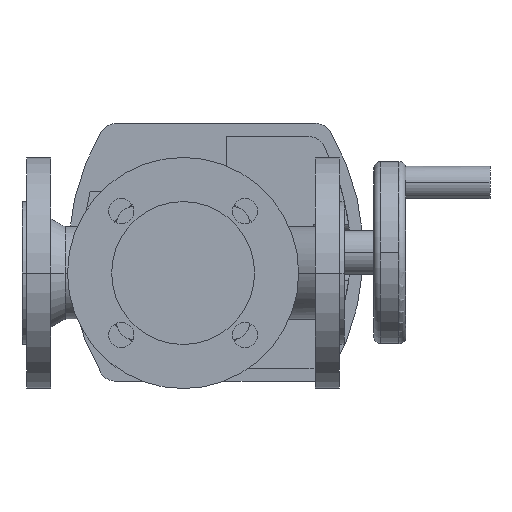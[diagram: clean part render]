
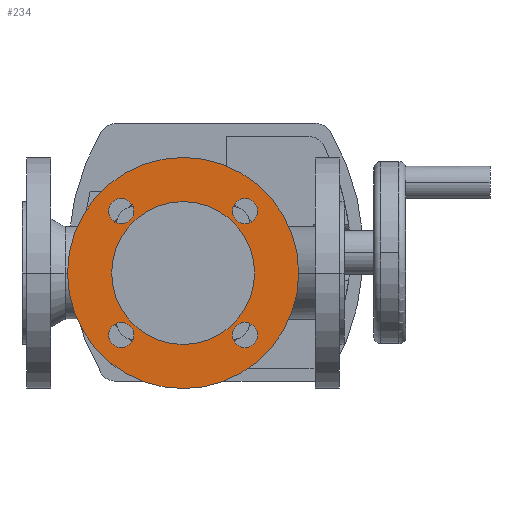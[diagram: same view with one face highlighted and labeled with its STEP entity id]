
A CAD part, front view. The second image highlights one B-rep face of the part: STEP entity #234.
In plain terms, the highlighted planar face has unit normal (0, -1, 0).
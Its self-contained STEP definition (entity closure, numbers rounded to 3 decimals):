
#234 = ADVANCED_FACE( '', ( #605, #606, #607, #608, #609, #610 ), #611, .F. );
#605 = FACE_BOUND( '', #1137, .T. );
#606 = FACE_BOUND( '', #1138, .T. );
#607 = FACE_BOUND( '', #1139, .T. );
#608 = FACE_BOUND( '', #1140, .T. );
#609 = FACE_OUTER_BOUND( '', #1141, .T. );
#610 = FACE_BOUND( '', #1142, .T. );
#611 = PLANE( '', #1143 );
#1137 = EDGE_LOOP( '', ( #2286, #2287 ) );
#1138 = EDGE_LOOP( '', ( #2288, #2289 ) );
#1139 = EDGE_LOOP( '', ( #2290, #2291 ) );
#1140 = EDGE_LOOP( '', ( #2292, #2293 ) );
#1141 = EDGE_LOOP( '', ( #2294, #2295 ) );
#1142 = EDGE_LOOP( '', ( #2296, #2297 ) );
#1143 = AXIS2_PLACEMENT_3D( '', #2298, #2299, #2300 );
#2286 = ORIENTED_EDGE( '', *, *, #3495, .T. );
#2287 = ORIENTED_EDGE( '', *, *, #3496, .T. );
#2288 = ORIENTED_EDGE( '', *, *, #3491, .T. );
#2289 = ORIENTED_EDGE( '', *, *, #3498, .T. );
#2290 = ORIENTED_EDGE( '', *, *, #3487, .T. );
#2291 = ORIENTED_EDGE( '', *, *, #3500, .T. );
#2292 = ORIENTED_EDGE( '', *, *, #3483, .T. );
#2293 = ORIENTED_EDGE( '', *, *, #3502, .T. );
#2294 = ORIENTED_EDGE( '', *, *, #3396, .F. );
#2295 = ORIENTED_EDGE( '', *, *, #3663, .F. );
#2296 = ORIENTED_EDGE( '', *, *, #3378, .F. );
#2297 = ORIENTED_EDGE( '', *, *, #3664, .F. );
#2298 = CARTESIAN_POINT( '', ( 115., -96.5, 0. ) );
#2299 = DIRECTION( '', ( 0., 1., 0. ) );
#2300 = DIRECTION( '', ( 0., 0., 1. ) );
#3378 = EDGE_CURVE( '', #4002, #3998, #4004, .T. );
#3396 = EDGE_CURVE( '', #4035, #4038, #4039, .T. );
#3483 = EDGE_CURVE( '', #4201, #4205, #4207, .T. );
#3487 = EDGE_CURVE( '', #4209, #4213, #4215, .T. );
#3491 = EDGE_CURVE( '', #4217, #4221, #4223, .T. );
#3495 = EDGE_CURVE( '', #4225, #4229, #4231, .T. );
#3496 = EDGE_CURVE( '', #4229, #4225, #4232, .T. );
#3498 = EDGE_CURVE( '', #4221, #4217, #4234, .T. );
#3500 = EDGE_CURVE( '', #4213, #4209, #4236, .T. );
#3502 = EDGE_CURVE( '', #4205, #4201, #4238, .T. );
#3663 = EDGE_CURVE( '', #4038, #4035, #4477, .T. );
#3664 = EDGE_CURVE( '', #3998, #4002, #4478, .T. );
#3998 = VERTEX_POINT( '', #5124 );
#4002 = VERTEX_POINT( '', #5129 );
#4004 = CIRCLE( '', #5132, 51. );
#4035 = VERTEX_POINT( '', #5244 );
#4038 = VERTEX_POINT( '', #5248 );
#4039 = CIRCLE( '', #5249, 82.5 );
#4201 = VERTEX_POINT( '', #5538 );
#4205 = VERTEX_POINT( '', #5543 );
#4207 = CIRCLE( '', #5546, 9. );
#4209 = VERTEX_POINT( '', #5548 );
#4213 = VERTEX_POINT( '', #5553 );
#4215 = CIRCLE( '', #5556, 9. );
#4217 = VERTEX_POINT( '', #5558 );
#4221 = VERTEX_POINT( '', #5563 );
#4223 = CIRCLE( '', #5566, 9. );
#4225 = VERTEX_POINT( '', #5568 );
#4229 = VERTEX_POINT( '', #5573 );
#4231 = CIRCLE( '', #5576, 9. );
#4232 = CIRCLE( '', #5577, 9. );
#4234 = CIRCLE( '', #5579, 9. );
#4236 = CIRCLE( '', #5581, 9. );
#4238 = CIRCLE( '', #5583, 9. );
#4477 = CIRCLE( '', #6109, 82.5 );
#4478 = CIRCLE( '', #6110, 51. );
#5124 = CARTESIAN_POINT( '', ( 166., -96.5, 0. ) );
#5129 = CARTESIAN_POINT( '', ( 64., -96.5, 0. ) );
#5132 = AXIS2_PLACEMENT_3D( '', #6795, #6796, #6797 );
#5244 = CARTESIAN_POINT( '', ( 197.5, -96.5, 0. ) );
#5248 = CARTESIAN_POINT( '', ( 32.5, -96.5, 0. ) );
#5249 = AXIS2_PLACEMENT_3D( '', #6832, #6833, #6834 );
#5538 = CARTESIAN_POINT( '', ( 61.806, -96.5, -44.194 ) );
#5543 = CARTESIAN_POINT( '', ( 79.806, -96.5, -44.194 ) );
#5546 = AXIS2_PLACEMENT_3D( '', #6997, #6998, #6999 );
#5548 = CARTESIAN_POINT( '', ( 61.806, -96.5, 44.194 ) );
#5553 = CARTESIAN_POINT( '', ( 79.806, -96.5, 44.194 ) );
#5556 = AXIS2_PLACEMENT_3D( '', #7005, #7006, #7007 );
#5558 = CARTESIAN_POINT( '', ( 150.194, -96.5, 44.194 ) );
#5563 = CARTESIAN_POINT( '', ( 168.194, -96.5, 44.194 ) );
#5566 = AXIS2_PLACEMENT_3D( '', #7013, #7014, #7015 );
#5568 = CARTESIAN_POINT( '', ( 150.194, -96.5, -44.194 ) );
#5573 = CARTESIAN_POINT( '', ( 168.194, -96.5, -44.194 ) );
#5576 = AXIS2_PLACEMENT_3D( '', #7021, #7022, #7023 );
#5577 = AXIS2_PLACEMENT_3D( '', #7024, #7025, #7026 );
#5579 = AXIS2_PLACEMENT_3D( '', #7030, #7031, #7032 );
#5581 = AXIS2_PLACEMENT_3D( '', #7036, #7037, #7038 );
#5583 = AXIS2_PLACEMENT_3D( '', #7042, #7043, #7044 );
#6109 = AXIS2_PLACEMENT_3D( '', #7330, #7331, #7332 );
#6110 = AXIS2_PLACEMENT_3D( '', #7333, #7334, #7335 );
#6795 = CARTESIAN_POINT( '', ( 115., -96.5, 0. ) );
#6796 = DIRECTION( '', ( 0., -1., 0. ) );
#6797 = DIRECTION( '', ( 1., 0., 0. ) );
#6832 = CARTESIAN_POINT( '', ( 115., -96.5, 0. ) );
#6833 = DIRECTION( '', ( 0., 1., 0. ) );
#6834 = DIRECTION( '', ( 1., 0., 0. ) );
#6997 = CARTESIAN_POINT( '', ( 70.806, -96.5, -44.194 ) );
#6998 = DIRECTION( '', ( 0., 1., 0. ) );
#6999 = DIRECTION( '', ( -1., 0., 0. ) );
#7005 = CARTESIAN_POINT( '', ( 70.806, -96.5, 44.194 ) );
#7006 = DIRECTION( '', ( 0., 1., 0. ) );
#7007 = DIRECTION( '', ( -1., 0., 0. ) );
#7013 = CARTESIAN_POINT( '', ( 159.194, -96.5, 44.194 ) );
#7014 = DIRECTION( '', ( 0., 1., 0. ) );
#7015 = DIRECTION( '', ( -1., 0., 0. ) );
#7021 = CARTESIAN_POINT( '', ( 159.194, -96.5, -44.194 ) );
#7022 = DIRECTION( '', ( 0., 1., 0. ) );
#7023 = DIRECTION( '', ( -1., 0., 0. ) );
#7024 = CARTESIAN_POINT( '', ( 159.194, -96.5, -44.194 ) );
#7025 = DIRECTION( '', ( 0., 1., 0. ) );
#7026 = DIRECTION( '', ( -1., 0., 0. ) );
#7030 = CARTESIAN_POINT( '', ( 159.194, -96.5, 44.194 ) );
#7031 = DIRECTION( '', ( 0., 1., 0. ) );
#7032 = DIRECTION( '', ( -1., 0., 0. ) );
#7036 = CARTESIAN_POINT( '', ( 70.806, -96.5, 44.194 ) );
#7037 = DIRECTION( '', ( 0., 1., 0. ) );
#7038 = DIRECTION( '', ( -1., 0., 0. ) );
#7042 = CARTESIAN_POINT( '', ( 70.806, -96.5, -44.194 ) );
#7043 = DIRECTION( '', ( 0., 1., 0. ) );
#7044 = DIRECTION( '', ( -1., 0., 0. ) );
#7330 = CARTESIAN_POINT( '', ( 115., -96.5, 0. ) );
#7331 = DIRECTION( '', ( 0., 1., 0. ) );
#7332 = DIRECTION( '', ( 1., 0., 0. ) );
#7333 = CARTESIAN_POINT( '', ( 115., -96.5, 0. ) );
#7334 = DIRECTION( '', ( 0., -1., 0. ) );
#7335 = DIRECTION( '', ( 1., 0., 0. ) );
